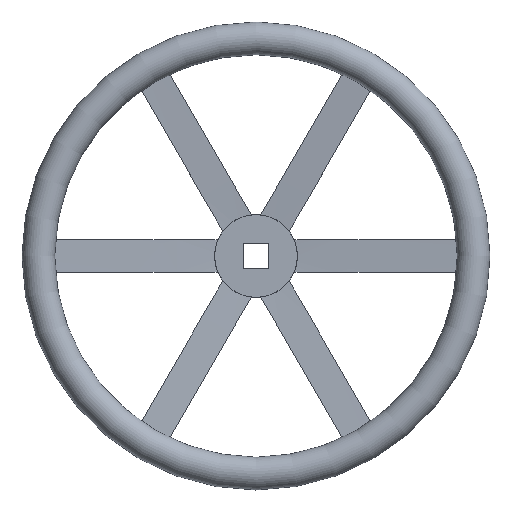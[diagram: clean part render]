
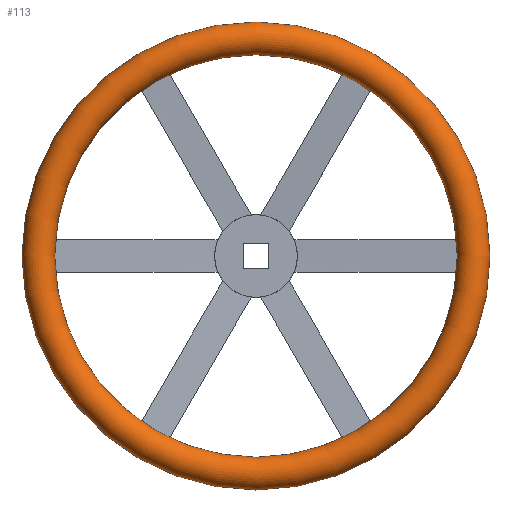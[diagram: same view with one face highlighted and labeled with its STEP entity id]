
A CAD part, top view. The second image highlights one B-rep face of the part: STEP entity #113.
In plain terms, the highlighted toroidal (fillet/blend) face has major radius 279 mm and minor radius 21 mm.
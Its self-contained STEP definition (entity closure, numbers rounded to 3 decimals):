
#113 = ADVANCED_FACE( '', ( #207, #208 ), #209, .T. );
#207 = FACE_OUTER_BOUND( '', #302, .T. );
#208 = FACE_OUTER_BOUND( '', #303, .T. );
#209 = TOROIDAL_SURFACE( '', #304, 279., 21. );
#302 = EDGE_LOOP( '', ( #615 ) );
#303 = EDGE_LOOP( '', ( #616 ) );
#304 = AXIS2_PLACEMENT_3D( '', #617, #618, #619 );
#615 = ORIENTED_EDGE( '', *, *, #718, .T. );
#616 = ORIENTED_EDGE( '', *, *, #691, .F. );
#617 = CARTESIAN_POINT( '', ( 0., 0., 50. ) );
#618 = DIRECTION( '', ( 0., 0., 1. ) );
#619 = DIRECTION( '', ( 1., 0., 0. ) );
#691 = EDGE_CURVE( '', #844, #844, #845, .T. );
#718 = EDGE_CURVE( '', #881, #881, #882, .T. );
#844 = VERTEX_POINT( '', #1180 );
#845 = CIRCLE( '', #1181, 258. );
#881 = VERTEX_POINT( '', #1297 );
#882 = CIRCLE( '', #1298, 300. );
#1180 = CARTESIAN_POINT( '', ( 258., 0., 50. ) );
#1181 = AXIS2_PLACEMENT_3D( '', #1408, #1409, #1410 );
#1297 = CARTESIAN_POINT( '', ( 300., 0., 50. ) );
#1298 = AXIS2_PLACEMENT_3D( '', #1449, #1450, #1451 );
#1408 = CARTESIAN_POINT( '', ( 0., 0., 50. ) );
#1409 = DIRECTION( '', ( 0., 0., 1. ) );
#1410 = DIRECTION( '', ( 1., 0., 0. ) );
#1449 = CARTESIAN_POINT( '', ( 0., 0., 50. ) );
#1450 = DIRECTION( '', ( 0., 0., 1. ) );
#1451 = DIRECTION( '', ( 1., 0., 0. ) );
